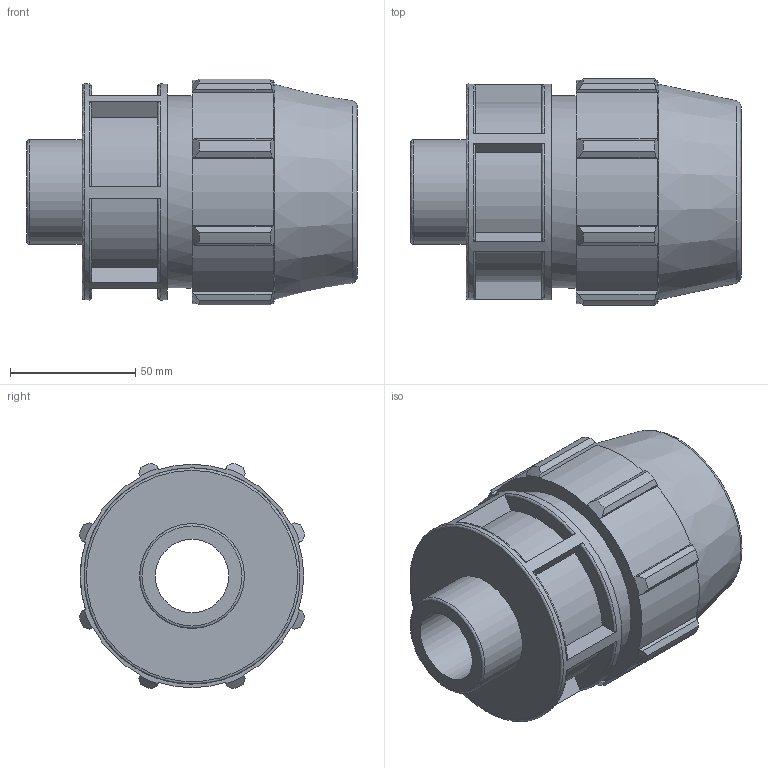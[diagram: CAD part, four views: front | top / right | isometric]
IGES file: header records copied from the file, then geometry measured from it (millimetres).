
Global section: file name: 0702M0T15013.ipt; native system: Autodesk Inventor 2019; preprocessor: unknown; author: KIM; date: 20210826.124443; units: inch
Bounding box: 132.08 x 90.34 x 90.34 mm (x, y, z)
Volume: 393949.7 mm3; surface area: 68392.4 mm2
Topology: 1 solids, 1 shells, 117 faces, 321 edges, 216 vertices
Faces by surface type: plane 63, cylinder 25, revolution 19, cone 10
Full cylindrical faces by diameter (mm): 41.91 x1, 76.81 x1, 86.411 x1
